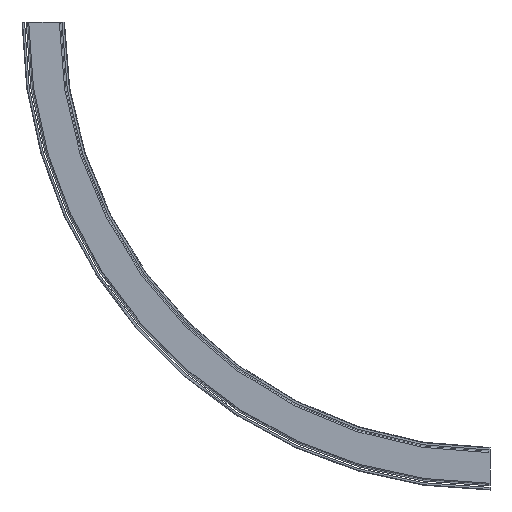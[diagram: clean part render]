
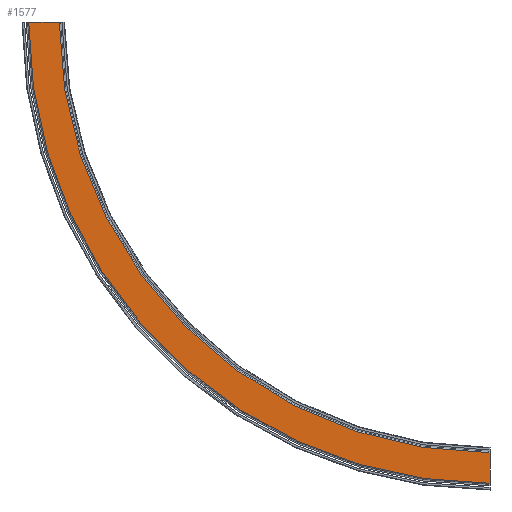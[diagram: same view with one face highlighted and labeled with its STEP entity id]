
A CAD part, left-side view. The second image highlights one B-rep face of the part: STEP entity #1577.
In plain terms, the highlighted planar face has unit normal (-1, 0, 0).
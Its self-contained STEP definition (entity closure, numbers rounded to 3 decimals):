
#126=PLANE('',#1712);
#200=FACE_OUTER_BOUND('',#292,.T.);
#292=EDGE_LOOP('',(#1300,#1301,#1302,#1303));
#360=CIRCLE('',#1711,830.5);
#361=CIRCLE('',#1713,889.5);
#464=LINE('',#7170,#590);
#465=LINE('',#7172,#591);
#590=VECTOR('',#2010,10.);
#591=VECTOR('',#2011,10.);
#750=VERTEX_POINT('',#7163);
#751=VERTEX_POINT('',#7165);
#752=VERTEX_POINT('',#7169);
#753=VERTEX_POINT('',#7171);
#950=EDGE_CURVE('',#750,#751,#360,.T.);
#951=EDGE_CURVE('',#752,#750,#464,.T.);
#952=EDGE_CURVE('',#753,#751,#465,.T.);
#953=EDGE_CURVE('',#752,#753,#361,.T.);
#1300=ORIENTED_EDGE('',*,*,#951,.T.);
#1301=ORIENTED_EDGE('',*,*,#950,.T.);
#1302=ORIENTED_EDGE('',*,*,#952,.F.);
#1303=ORIENTED_EDGE('',*,*,#953,.F.);
#1577=ADVANCED_FACE('',(#200),#126,.T.);
#1711=AXIS2_PLACEMENT_3D('',#7167,#2006,#2007);
#1712=AXIS2_PLACEMENT_3D('',#7168,#2008,#2009);
#1713=AXIS2_PLACEMENT_3D('',#7173,#2012,#2013);
#2006=DIRECTION('center_axis',(1.,0.,0.));
#2007=DIRECTION('ref_axis',(0.,0.,-1.));
#2008=DIRECTION('center_axis',(-1.,0.,0.));
#2009=DIRECTION('ref_axis',(0.,0.,1.));
#2010=DIRECTION('',(0.,0.,1.));
#2011=DIRECTION('',(0.,-1.,0.));
#2012=DIRECTION('center_axis',(1.,0.,0.));
#2013=DIRECTION('ref_axis',(0.,0.,-1.));
#7163=CARTESIAN_POINT('',(-43.,0.,29.5));
#7165=CARTESIAN_POINT('',(-43.,830.5,860.));
#7167=CARTESIAN_POINT('Origin',(-43.,0.,860.));
#7168=CARTESIAN_POINT('Origin',(-43.,0.,-29.5));
#7169=CARTESIAN_POINT('',(-43.,0.,-29.5));
#7170=CARTESIAN_POINT('',(-43.,0.,-29.5));
#7171=CARTESIAN_POINT('',(-43.,889.5,860.));
#7172=CARTESIAN_POINT('',(-43.,889.5,860.));
#7173=CARTESIAN_POINT('Origin',(-43.,0.,860.));
